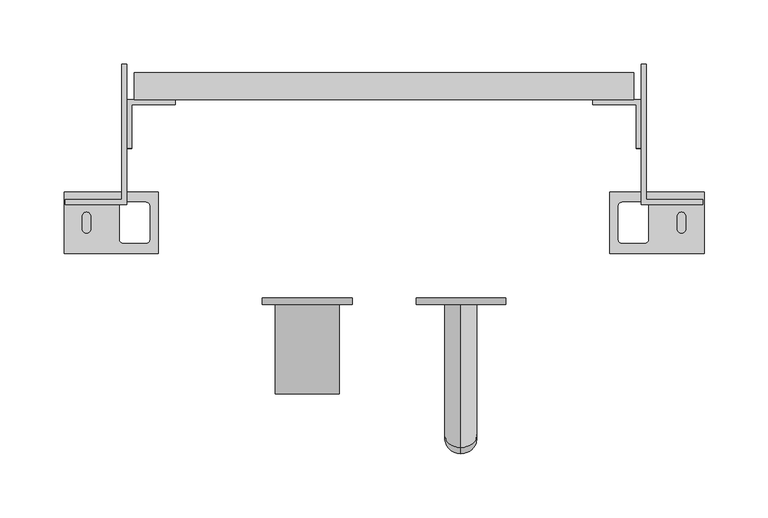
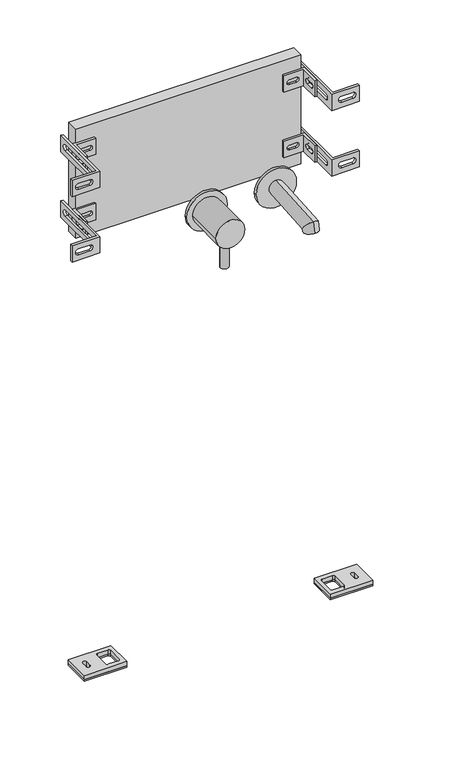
"""IFC4 building model written with IfcOpenShell, lengths in millimetres: flow terminal geometry, nextVIT Montageelement Dusch und Badewannenarmatur : nextVIT Montageelement Dusch und Badewannenarmatur."""

from ifc_helpers import new_model, si_unit, point, frame, frame_2d, origin, origin_with_axes, place, context, project, spatial, polyline, circle_curve, ellipse_curve, trimmed, segment, composite_curve, outline, extrude, source, transform, mapped, element, save
from ifc_brep_helpers import plane_surface, cylinder_surface, revolved_surface, advanced_brep


def flow_terminal_601b9abe(model_context):
    return source(origin(), model_context, "Body", "SolidModel", [
        advanced_brep(
        [(60.0, -188.1558733, 834.2177209), (60.0, -186.4119614, 809.2786197), (60.0, -306.7513047, 807.9954619), (60.0, -282.603159, 801.5249858), (60.0, -301.8554413, 826.2670726), (60.0, -282.3226414, 802.5718916)],
        [
            (0, 1, circle_curve(frame((60.0, -187.2839174, 821.7481703), z_axis=(0.0, 0.9975640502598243, 0.06975647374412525), x_axis=(0.0, 0.06975647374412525, -0.9975640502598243)), 12.5)),
            (1, 0, circle_curve(frame((60.0, -187.2839174, 821.7481703), z_axis=(0.0, 0.9975640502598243, 0.06975647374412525), x_axis=(0.0, 0.06975647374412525, -0.9975640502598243)), 12.5)),
            (2, 3, circle_curve(frame((60.0, -294.6772318, 804.7602238), z_axis=(0.0, -0.25881904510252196, -0.965925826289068), x_axis=(0.0, 0.965925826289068, -0.25881904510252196)), 12.5)),
            (3, 2, circle_curve(frame((60.0, -294.6772318, 804.7602238), z_axis=(0.0, -0.25881904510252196, -0.965925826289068), x_axis=(0.0, 0.965925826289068, -0.25881904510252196)), 12.5)),
            (0, 4),
            (4, 5, ellipse_curve(frame((60.0, -292.0890414, 814.4194821), z_axis=(0.0, 0.7716245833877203, 0.6360782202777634), x_axis=(0.0, 0.6360782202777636, -0.7716245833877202)), 15.3540864, 12.5)),
            (5, 1),
            (5, 4, ellipse_curve(frame((60.0, -292.0890414, 814.4194821), z_axis=(0.0, 0.7716245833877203, 0.6360782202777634), x_axis=(0.0, 0.6360782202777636, -0.7716245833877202)), 15.3540864, 12.5)),
            (4, 2),
            (3, 5),
        ],
        [
            plane_surface(frame((0.0, -187.2839174, 821.7481703), z_axis=(0.0, 0.9975640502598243, 0.06975647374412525), x_axis=(1.0, 0.0, 0.0))),
            plane_surface(frame((0.0, -294.6772318, 804.7602238), z_axis=(0.0, -0.25881904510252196, -0.965925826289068), x_axis=(1.0, 0.0, 0.0))),
            cylinder_surface(frame((60.0, -187.2839174, 821.7481703), z_axis=(0.0, 0.9975640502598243, 0.06975647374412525), x_axis=(0.0, 0.06975647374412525, -0.9975640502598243)), 12.5),
            cylinder_surface(frame((60.0, -292.0890414, 814.4194821), z_axis=(0.0, 0.25881904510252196, 0.965925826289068), x_axis=(0.0, 0.965925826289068, -0.25881904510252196)), 12.5),
        ],
        [
            (0, [[1, 2]]),
            (1, [[3, 4]]),
            (2, [[-1, 5, 6, 7]]),
            (2, [[-2, -7, 8, -5]]),
            (3, [[-6, 9, -4, 10]]),
            (3, [[-8, -10, -3, -9]]),
        ],
    ),
        extrude(outline(composite_curve([segment(trimmed(circle_curve(frame_2d((820.0, -60.0)), 25.0), [point((820.0, -85.0))], [point((820.0, -35.0))], False, "CARTESIAN"), True, "CONTINUOUS"), segment(trimmed(circle_curve(frame_2d((820.0, -60.0)), 25.0), [point((820.0, -35.0))], [point((820.0, -85.0))], False, "CARTESIAN"), True, "CONTINUOUS")], self_intersect=False)), frame((0.0, -260.0, 0.0), z_axis=(0.0, 1.0, 0.0), x_axis=(0.0, 0.0, 1.0)), (0.0, 0.0, 1.0), 70.0),
        extrude(outline(composite_curve([segment(trimmed(circle_curve(frame_2d((-60.0, -241.9817695)), 7.0), [point((-67.0, -241.9817695))], [point((-53.0, -241.9817695))], False, "CARTESIAN"), True, "CONTINUOUS"), segment(trimmed(circle_curve(frame_2d((-60.0, -241.9817695)), 7.0), [point((-53.0, -241.9817695))], [point((-67.0, -241.9817695))], False, "CARTESIAN"), True, "CONTINUOUS")], self_intersect=False)), frame((0.0, 0.0, 750.0), z_axis=(0.0, 0.0, 1.0), x_axis=(1.0, 0.0, 0.0)), (0.0, 0.0, 1.0), 70.0),
        extrude(outline(composite_curve([segment(trimmed(circle_curve(frame_2d((820.0, -60.0)), 35.0), [point((820.0, -95.0))], [point((820.0, -25.0))], False, "CARTESIAN"), True, "CONTINUOUS"), segment(trimmed(circle_curve(frame_2d((820.0, -60.0)), 35.0), [point((820.0, -25.0))], [point((820.0, -95.0))], False, "CARTESIAN"), True, "CONTINUOUS")], self_intersect=False)), frame((0.0, -190.0, 0.0), z_axis=(0.0, 1.0, 0.0), x_axis=(0.0, 0.0, 1.0)), (0.0, 0.0, 1.0), 5.0),
        extrude(outline(composite_curve([segment(trimmed(circle_curve(frame_2d((820.0, 60.0)), 35.0), [point((820.0, 25.0))], [point((820.0, 95.0))], False, "CARTESIAN"), True, "CONTINUOUS"), segment(trimmed(circle_curve(frame_2d((820.0, 60.0)), 35.0), [point((820.0, 95.0))], [point((820.0, 25.0))], False, "CARTESIAN"), True, "CONTINUOUS")], self_intersect=False)), frame((0.0, -190.0, 0.0), z_axis=(0.0, 1.0, 0.0), x_axis=(0.0, 0.0, 1.0)), (0.0, 0.0, 1.0), 5.0),
        extrude(outline(polyline([(195.0, -30.0), (-195.0, -30.0), (-195.0, -9.0), (195.0, -9.0), (195.0, -30.0)])), frame((0.0, 0.0, 720.0), z_axis=(0.0, 0.0, 1.0), x_axis=(1.0, 0.0, 0.0)), (0.0, 0.0, 1.0), 200.0),
        advanced_brep(
        [(-201.0, -2.0, 895.0), (-205.0, -2.0, 895.0), (-205.0, -108.0, 895.0), (-249.0, -108.0, 895.0), (-249.0, -112.0, 895.0), (-201.0, -112.0, 895.0), (-201.0, -2.0, 865.0), (-201.0, -112.0, 865.0), (-249.0, -112.0, 865.0), (-249.0, -108.0, 865.0), (-205.0, -108.0, 865.0), (-205.0, -2.0, 865.0), (-205.0, -14.75, 885.25), (-205.0, -94.25, 885.25), (-205.0, -94.25, 874.75), (-205.0, -14.75, 874.75), (-218.25, -108.0, 885.25), (-237.75, -108.0, 885.25), (-237.75, -108.0, 874.75), (-218.25, -108.0, 874.75), (-237.75, -112.0, 885.25), (-218.25, -112.0, 885.25), (-218.25, -112.0, 874.75), (-237.75, -112.0, 874.75), (-201.0, -94.25, 885.25), (-201.0, -14.75, 885.25), (-201.0, -14.75, 874.75), (-201.0, -94.25, 874.75)],
        [
            (0, 1),
            (1, 2),
            (2, 3),
            (3, 4),
            (4, 5),
            (5, 0),
            (6, 7),
            (7, 8),
            (8, 9),
            (9, 10),
            (10, 11),
            (11, 6),
            (0, 6),
            (11, 1),
            (10, 2),
            (12, 13),
            (13, 14, circle_curve(frame((-205.0, -94.25, 880.0), z_axis=(1.0, 0.0, 0.0), x_axis=(0.0, 1.0, 0.0)), 5.25)),
            (14, 15),
            (15, 12, circle_curve(frame((-205.0, -14.75, 880.0), z_axis=(1.0, 0.0, 0.0), x_axis=(0.0, 1.0, 0.0)), 5.25)),
            (9, 3),
            (16, 17),
            (17, 18, circle_curve(frame((-237.75, -108.0, 880.0), z_axis=(0.0, -1.0, 0.0), x_axis=(1.0, 0.0, 0.0)), 5.25)),
            (18, 19),
            (19, 16, circle_curve(frame((-218.25, -108.0, 880.0), z_axis=(0.0, -1.0, 0.0), x_axis=(1.0, 0.0, 0.0)), 5.25)),
            (8, 4),
            (7, 5),
            (20, 21),
            (21, 22, circle_curve(frame((-218.25, -112.0, 880.0), z_axis=(0.0, 1.0, 0.0), x_axis=(1.0, 0.0, 0.0)), 5.25)),
            (22, 23),
            (23, 20, circle_curve(frame((-237.75, -112.0, 880.0), z_axis=(0.0, 1.0, 0.0), x_axis=(1.0, 0.0, 0.0)), 5.25)),
            (24, 25),
            (25, 26, circle_curve(frame((-201.0, -14.75, 880.0), z_axis=(-1.0, 0.0, 0.0), x_axis=(0.0, 1.0, 0.0)), 5.25)),
            (26, 27),
            (27, 24, circle_curve(frame((-201.0, -94.25, 880.0), z_axis=(-1.0, 0.0, 0.0), x_axis=(0.0, 1.0, 0.0)), 5.25)),
            (20, 17),
            (16, 21),
            (23, 18),
            (22, 19),
            (24, 13),
            (12, 25),
            (27, 14),
            (26, 15),
        ],
        [
            plane_surface(frame((-201.0, -2.0, 895.0), z_axis=(0.0, 0.0, 1.0), x_axis=(-1.0, 0.0, 0.0))),
            plane_surface(frame((-201.0, -2.0, 865.0), z_axis=(0.0, 0.0, -1.0), x_axis=(1.0, 0.0, 0.0))),
            plane_surface(frame((-201.0, -2.0, 895.0), z_axis=(0.0, 1.0, 0.0), x_axis=(0.0, 0.0, -1.0))),
            plane_surface(frame((-205.0, -2.0, 895.0), z_axis=(-1.0, 0.0, 0.0), x_axis=(0.0, 0.0, -1.0))),
            plane_surface(frame((-205.0, -108.0, 895.0), z_axis=(0.0, 1.0, 0.0), x_axis=(0.0, 0.0, -1.0))),
            plane_surface(frame((-249.0, -108.0, 895.0), z_axis=(-1.0, 0.0, 0.0), x_axis=(0.0, 0.0, -1.0))),
            plane_surface(frame((-249.0, -112.0, 895.0), z_axis=(0.0, -1.0, 0.0), x_axis=(0.0, 0.0, -1.0))),
            plane_surface(frame((-201.0, -112.0, 895.0), z_axis=(1.0, 0.0, 0.0), x_axis=(0.0, 0.0, -1.0))),
            plane_surface(frame((-218.25, -112.0, 885.25), z_axis=(0.0, 0.0, -1.0), x_axis=(0.0, 1.0, 0.0))),
            revolved_surface(polyline([(-232.5, -112.0, 880.0), (-232.5, -108.0, 880.0)]), (-237.75, -108.0, 880.0), (0.0, -1.0, 0.0)),
            plane_surface(frame((-237.75, -112.0, 874.75), z_axis=(0.0, 0.0, 1.0), x_axis=(0.0, 1.0, 0.0))),
            revolved_surface(polyline([(-213.0, -112.0, 880.0), (-213.0, -108.0, 880.0)]), (-218.25, -108.0, 880.0), (0.0, -1.0, 0.0)),
            plane_surface(frame((-201.0, -14.75, 885.25), z_axis=(0.0, 0.0, -1.0), x_axis=(-1.0, 0.0, 0.0))),
            revolved_surface(polyline([(-201.0, -89.0, 880.0), (-205.0, -89.0, 880.0)]), (-205.0, -94.25, 880.0), (1.0, 0.0, 0.0)),
            plane_surface(frame((-201.0, -94.25, 874.75), z_axis=(0.0, 0.0, 1.0), x_axis=(-1.0, 0.0, 0.0))),
            revolved_surface(polyline([(-201.0, -9.5, 880.0), (-205.0, -9.5, 880.0)]), (-205.0, -14.75, 880.0), (1.0, 0.0, 0.0)),
        ],
        [
            (0, [[1, 2, 3, 4, 5, 6]]),
            (1, [[7, 8, 9, 10, 11, 12]]),
            (2, [[-1, 13, -12, 14]]),
            (3, [[-2, -14, -11, 15], [16, 17, 18, 19]]),
            (4, [[-3, -15, -10, 20], [21, 22, 23, 24]]),
            (5, [[-4, -20, -9, 25]]),
            (6, [[-5, -25, -8, 26], [27, 28, 29, 30]]),
            (7, [[-6, -26, -7, -13], [31, 32, 33, 34]]),
            (8, [[35, -21, 36, -27]]),
            (9, [[-35, -30, 37, -22]]),
            (10, [[-37, -29, 38, -23]]),
            (11, [[-36, -24, -38, -28]]),
            (12, [[39, -16, 40, -31]]),
            (13, [[-39, -34, 41, -17]]),
            (14, [[-41, -33, 42, -18]]),
            (15, [[-40, -19, -42, -32]]),
        ],
    ),
        advanced_brep(
        [(-163.0, -34.0, 895.0), (-163.0, -30.0, 895.0), (-201.0, -30.0, 895.0), (-201.0, -68.0, 895.0), (-197.0, -68.0, 895.0), (-197.0, -34.0, 895.0), (-163.0, -34.0, 865.0), (-197.0, -34.0, 865.0), (-197.0, -68.0, 865.0), (-201.0, -68.0, 865.0), (-201.0, -30.0, 865.0), (-163.0, -30.0, 865.0), (-173.0, -30.0, 884.3), (-185.0, -30.0, 884.3), (-185.0, -30.0, 875.7), (-173.0, -30.0, 875.7), (-201.0, -46.0, 884.3), (-201.0, -58.0, 884.3), (-201.0, -58.0, 875.7), (-201.0, -46.0, 875.7), (-197.0, -58.0, 884.3), (-197.0, -46.0, 884.3), (-197.0, -46.0, 875.7), (-197.0, -58.0, 875.7), (-185.0, -34.0, 884.3), (-173.0, -34.0, 884.3), (-173.0, -34.0, 875.7), (-185.0, -34.0, 875.7)],
        [
            (0, 1),
            (1, 2),
            (2, 3),
            (3, 4),
            (4, 5),
            (5, 0),
            (6, 7),
            (7, 8),
            (8, 9),
            (9, 10),
            (10, 11),
            (11, 6),
            (0, 6),
            (11, 1),
            (10, 2),
            (12, 13),
            (13, 14, circle_curve(frame((-185.0, -30.0, 880.0), z_axis=(0.0, -1.0, 0.0), x_axis=(1.0, 0.0, 0.0)), 4.3)),
            (14, 15),
            (15, 12, circle_curve(frame((-173.0, -30.0, 880.0), z_axis=(0.0, -1.0, 0.0), x_axis=(1.0, 0.0, 0.0)), 4.3)),
            (9, 3),
            (16, 17),
            (17, 18, circle_curve(frame((-201.0, -58.0, 880.0), z_axis=(1.0, 0.0, 0.0), x_axis=(0.0, 1.0, 0.0)), 4.3)),
            (18, 19),
            (19, 16, circle_curve(frame((-201.0, -46.0, 880.0), z_axis=(1.0, 0.0, 0.0), x_axis=(0.0, 1.0, 0.0)), 4.3)),
            (8, 4),
            (7, 5),
            (20, 21),
            (21, 22, circle_curve(frame((-197.0, -46.0, 880.0), z_axis=(-1.0, 0.0, 0.0), x_axis=(0.0, 1.0, 0.0)), 4.3)),
            (22, 23),
            (23, 20, circle_curve(frame((-197.0, -58.0, 880.0), z_axis=(-1.0, 0.0, 0.0), x_axis=(0.0, 1.0, 0.0)), 4.3)),
            (24, 25),
            (25, 26, circle_curve(frame((-173.0, -34.0, 880.0), z_axis=(0.0, 1.0, 0.0), x_axis=(1.0, 0.0, 0.0)), 4.3)),
            (26, 27),
            (27, 24, circle_curve(frame((-185.0, -34.0, 880.0), z_axis=(0.0, 1.0, 0.0), x_axis=(1.0, 0.0, 0.0)), 4.3)),
            (24, 13),
            (12, 25),
            (27, 14),
            (26, 15),
            (20, 17),
            (16, 21),
            (23, 18),
            (22, 19),
        ],
        [
            plane_surface(frame((-163.0, -34.0, 895.0), z_axis=(0.0, 0.0, 1.0), x_axis=(0.0, 1.0, 0.0))),
            plane_surface(frame((-163.0, -34.0, 865.0), z_axis=(0.0, 0.0, -1.0), x_axis=(0.0, -1.0, 0.0))),
            plane_surface(frame((-163.0, -34.0, 895.0), z_axis=(1.0, 0.0, 0.0), x_axis=(0.0, 0.0, -1.0))),
            plane_surface(frame((-163.0, -30.0, 895.0), z_axis=(0.0, 1.0, 0.0), x_axis=(0.0, 0.0, -1.0))),
            plane_surface(frame((-201.0, -30.0, 895.0), z_axis=(-1.0, 0.0, 0.0), x_axis=(0.0, 0.0, -1.0))),
            plane_surface(frame((-201.0, -68.0, 895.0), z_axis=(0.0, -1.0, 0.0), x_axis=(0.0, 0.0, -1.0))),
            plane_surface(frame((-197.0, -68.0, 895.0), z_axis=(1.0, 0.0, 0.0), x_axis=(0.0, 0.0, -1.0))),
            plane_surface(frame((-197.0, -34.0, 895.0), z_axis=(0.0, -1.0, 0.0), x_axis=(0.0, 0.0, -1.0))),
            plane_surface(frame((-173.0, -34.0, 884.3), z_axis=(0.0, 0.0, -1.0), x_axis=(0.0, 1.0, 0.0))),
            revolved_surface(polyline([(-180.7, -34.0, 880.0), (-180.7, -30.0, 880.0)]), (-185.0, -30.0, 880.0), (0.0, -1.0, 0.0)),
            plane_surface(frame((-185.0, -34.0, 875.7), z_axis=(0.0, 0.0, 1.0), x_axis=(0.0, 1.0, 0.0))),
            revolved_surface(polyline([(-168.7, -34.0, 880.0), (-168.7, -30.0, 880.0)]), (-173.0, -30.0, 880.0), (0.0, -1.0, 0.0)),
            plane_surface(frame((-197.0, -46.0, 884.3), z_axis=(0.0, 0.0, -1.0), x_axis=(-1.0, 0.0, 0.0))),
            revolved_surface(polyline([(-197.0, -53.7, 880.0), (-201.0, -53.7, 880.0)]), (-201.0, -58.0, 880.0), (1.0, 0.0, 0.0)),
            plane_surface(frame((-197.0, -58.0, 875.7), z_axis=(0.0, 0.0, 1.0), x_axis=(-1.0, 0.0, 0.0))),
            revolved_surface(polyline([(-197.0, -41.7, 880.0), (-201.0, -41.7, 880.0)]), (-201.0, -46.0, 880.0), (1.0, 0.0, 0.0)),
        ],
        [
            (0, [[1, 2, 3, 4, 5, 6]]),
            (1, [[7, 8, 9, 10, 11, 12]]),
            (2, [[-1, 13, -12, 14]]),
            (3, [[-2, -14, -11, 15], [16, 17, 18, 19]]),
            (4, [[-3, -15, -10, 20], [21, 22, 23, 24]]),
            (5, [[-4, -20, -9, 25]]),
            (6, [[-5, -25, -8, 26], [27, 28, 29, 30]]),
            (7, [[-6, -26, -7, -13], [31, 32, 33, 34]]),
            (8, [[35, -16, 36, -31]]),
            (9, [[-35, -34, 37, -17]]),
            (10, [[-37, -33, 38, -18]]),
            (11, [[-36, -19, -38, -32]]),
            (12, [[39, -21, 40, -27]]),
            (13, [[-39, -30, 41, -22]]),
            (14, [[-41, -29, 42, -23]]),
            (15, [[-40, -24, -42, -28]]),
        ],
    ),
        advanced_brep(
        [(-163.0, -34.0, 775.0), (-163.0, -30.0, 775.0), (-201.0, -30.0, 775.0), (-201.0, -68.0, 775.0), (-197.0, -68.0, 775.0), (-197.0, -34.0, 775.0), (-163.0, -34.0, 745.0), (-197.0, -34.0, 745.0), (-197.0, -68.0, 745.0), (-201.0, -68.0, 745.0), (-201.0, -30.0, 745.0), (-163.0, -30.0, 745.0), (-173.0, -30.0, 764.3), (-185.0, -30.0, 764.3), (-185.0, -30.0, 755.7), (-173.0, -30.0, 755.7), (-201.0, -46.0, 764.3), (-201.0, -58.0, 764.3), (-201.0, -58.0, 755.7), (-201.0, -46.0, 755.7), (-197.0, -58.0, 764.3), (-197.0, -46.0, 764.3), (-197.0, -46.0, 755.7), (-197.0, -58.0, 755.7), (-185.0, -34.0, 764.3), (-173.0, -34.0, 764.3), (-173.0, -34.0, 755.7), (-185.0, -34.0, 755.7)],
        [
            (0, 1),
            (1, 2),
            (2, 3),
            (3, 4),
            (4, 5),
            (5, 0),
            (6, 7),
            (7, 8),
            (8, 9),
            (9, 10),
            (10, 11),
            (11, 6),
            (0, 6),
            (11, 1),
            (10, 2),
            (12, 13),
            (13, 14, circle_curve(frame((-185.0, -30.0, 760.0), z_axis=(0.0, -1.0, 0.0), x_axis=(1.0, 0.0, 0.0)), 4.3)),
            (14, 15),
            (15, 12, circle_curve(frame((-173.0, -30.0, 760.0), z_axis=(0.0, -1.0, 0.0), x_axis=(1.0, 0.0, 0.0)), 4.3)),
            (9, 3),
            (16, 17),
            (17, 18, circle_curve(frame((-201.0, -58.0, 760.0), z_axis=(1.0, 0.0, 0.0), x_axis=(0.0, 1.0, 0.0)), 4.3)),
            (18, 19),
            (19, 16, circle_curve(frame((-201.0, -46.0, 760.0), z_axis=(1.0, 0.0, 0.0), x_axis=(0.0, 1.0, 0.0)), 4.3)),
            (8, 4),
            (7, 5),
            (20, 21),
            (21, 22, circle_curve(frame((-197.0, -46.0, 760.0), z_axis=(-1.0, 0.0, 0.0), x_axis=(0.0, 1.0, 0.0)), 4.3)),
            (22, 23),
            (23, 20, circle_curve(frame((-197.0, -58.0, 760.0), z_axis=(-1.0, 0.0, 0.0), x_axis=(0.0, 1.0, 0.0)), 4.3)),
            (24, 25),
            (25, 26, circle_curve(frame((-173.0, -34.0, 760.0), z_axis=(0.0, 1.0, 0.0), x_axis=(1.0, 0.0, 0.0)), 4.3)),
            (26, 27),
            (27, 24, circle_curve(frame((-185.0, -34.0, 760.0), z_axis=(0.0, 1.0, 0.0), x_axis=(1.0, 0.0, 0.0)), 4.3)),
            (20, 17),
            (16, 21),
            (23, 18),
            (22, 19),
            (24, 13),
            (12, 25),
            (27, 14),
            (26, 15),
        ],
        [
            plane_surface(frame((-163.0, -34.0, 775.0), z_axis=(0.0, 0.0, 1.0), x_axis=(0.0, 1.0, 0.0))),
            plane_surface(frame((-163.0, -34.0, 745.0), z_axis=(0.0, 0.0, -1.0), x_axis=(0.0, -1.0, 0.0))),
            plane_surface(frame((-163.0, -34.0, 775.0), z_axis=(1.0, 0.0, 0.0), x_axis=(0.0, 0.0, -1.0))),
            plane_surface(frame((-163.0, -30.0, 775.0), z_axis=(0.0, 1.0, 0.0), x_axis=(0.0, 0.0, -1.0))),
            plane_surface(frame((-201.0, -30.0, 775.0), z_axis=(-1.0, 0.0, 0.0), x_axis=(0.0, 0.0, -1.0))),
            plane_surface(frame((-201.0, -68.0, 775.0), z_axis=(0.0, -1.0, 0.0), x_axis=(0.0, 0.0, -1.0))),
            plane_surface(frame((-197.0, -68.0, 775.0), z_axis=(1.0, 0.0, 0.0), x_axis=(0.0, 0.0, -1.0))),
            plane_surface(frame((-197.0, -34.0, 775.0), z_axis=(0.0, -1.0, 0.0), x_axis=(0.0, 0.0, -1.0))),
            plane_surface(frame((-197.0, -46.0, 764.3), z_axis=(0.0, 0.0, -1.0), x_axis=(-1.0, 0.0, 0.0))),
            revolved_surface(polyline([(-197.0, -53.7, 760.0), (-201.0, -53.7, 760.0)]), (-201.0, -58.0, 760.0), (1.0, 0.0, 0.0)),
            plane_surface(frame((-197.0, -58.0, 755.7), z_axis=(0.0, 0.0, 1.0), x_axis=(-1.0, 0.0, 0.0))),
            revolved_surface(polyline([(-197.0, -41.7, 760.0), (-201.0, -41.7, 760.0)]), (-201.0, -46.0, 760.0), (1.0, 0.0, 0.0)),
            plane_surface(frame((-173.0, -34.0, 764.3), z_axis=(0.0, 0.0, -1.0), x_axis=(0.0, 1.0, 0.0))),
            revolved_surface(polyline([(-180.7, -34.0, 760.0), (-180.7, -30.0, 760.0)]), (-185.0, -30.0, 760.0), (0.0, -1.0, 0.0)),
            plane_surface(frame((-185.0, -34.0, 755.7), z_axis=(0.0, 0.0, 1.0), x_axis=(0.0, 1.0, 0.0))),
            revolved_surface(polyline([(-168.7, -34.0, 760.0), (-168.7, -30.0, 760.0)]), (-173.0, -30.0, 760.0), (0.0, -1.0, 0.0)),
        ],
        [
            (0, [[1, 2, 3, 4, 5, 6]]),
            (1, [[7, 8, 9, 10, 11, 12]]),
            (2, [[-1, 13, -12, 14]]),
            (3, [[-2, -14, -11, 15], [16, 17, 18, 19]]),
            (4, [[-3, -15, -10, 20], [21, 22, 23, 24]]),
            (5, [[-4, -20, -9, 25]]),
            (6, [[-5, -25, -8, 26], [27, 28, 29, 30]]),
            (7, [[-6, -26, -7, -13], [31, 32, 33, 34]]),
            (8, [[35, -21, 36, -27]]),
            (9, [[-35, -30, 37, -22]]),
            (10, [[-37, -29, 38, -23]]),
            (11, [[-36, -24, -38, -28]]),
            (12, [[39, -16, 40, -31]]),
            (13, [[-39, -34, 41, -17]]),
            (14, [[-41, -33, 42, -18]]),
            (15, [[-40, -19, -42, -32]]),
        ],
    ),
        advanced_brep(
        [(-201.0, -2.0, 775.0), (-205.0, -2.0, 775.0), (-205.0, -108.0, 775.0), (-249.0, -108.0, 775.0), (-249.0, -112.0, 775.0), (-201.0, -112.0, 775.0), (-201.0, -2.0, 745.0), (-201.0, -112.0, 745.0), (-249.0, -112.0, 745.0), (-249.0, -108.0, 745.0), (-205.0, -108.0, 745.0), (-205.0, -2.0, 745.0), (-205.0, -14.75, 765.25), (-205.0, -94.25, 765.25), (-205.0, -94.25, 754.75), (-205.0, -14.75, 754.75), (-218.25, -108.0, 765.25), (-237.75, -108.0, 765.25), (-237.75, -108.0, 754.75), (-218.25, -108.0, 754.75), (-237.75, -112.0, 765.25), (-218.25, -112.0, 765.25), (-218.25, -112.0, 754.75), (-237.75, -112.0, 754.75), (-201.0, -94.25, 765.25), (-201.0, -14.75, 765.25), (-201.0, -14.75, 754.75), (-201.0, -94.25, 754.75)],
        [
            (0, 1),
            (1, 2),
            (2, 3),
            (3, 4),
            (4, 5),
            (5, 0),
            (6, 7),
            (7, 8),
            (8, 9),
            (9, 10),
            (10, 11),
            (11, 6),
            (0, 6),
            (11, 1),
            (10, 2),
            (12, 13),
            (13, 14, circle_curve(frame((-205.0, -94.25, 760.0), z_axis=(1.0, 0.0, 0.0), x_axis=(0.0, 1.0, 0.0)), 5.25)),
            (14, 15),
            (15, 12, circle_curve(frame((-205.0, -14.75, 760.0), z_axis=(1.0, 0.0, 0.0), x_axis=(0.0, 1.0, 0.0)), 5.25)),
            (9, 3),
            (16, 17),
            (17, 18, circle_curve(frame((-237.75, -108.0, 760.0), z_axis=(0.0, -1.0, 0.0), x_axis=(1.0, 0.0, 0.0)), 5.25)),
            (18, 19),
            (19, 16, circle_curve(frame((-218.25, -108.0, 760.0), z_axis=(0.0, -1.0, 0.0), x_axis=(1.0, 0.0, 0.0)), 5.25)),
            (8, 4),
            (7, 5),
            (20, 21),
            (21, 22, circle_curve(frame((-218.25, -112.0, 760.0), z_axis=(0.0, 1.0, 0.0), x_axis=(1.0, 0.0, 0.0)), 5.25)),
            (22, 23),
            (23, 20, circle_curve(frame((-237.75, -112.0, 760.0), z_axis=(0.0, 1.0, 0.0), x_axis=(1.0, 0.0, 0.0)), 5.25)),
            (24, 25),
            (25, 26, circle_curve(frame((-201.0, -14.75, 760.0), z_axis=(-1.0, 0.0, 0.0), x_axis=(0.0, 1.0, 0.0)), 5.25)),
            (26, 27),
            (27, 24, circle_curve(frame((-201.0, -94.25, 760.0), z_axis=(-1.0, 0.0, 0.0), x_axis=(0.0, 1.0, 0.0)), 5.25)),
            (20, 17),
            (16, 21),
            (23, 18),
            (22, 19),
            (24, 13),
            (12, 25),
            (27, 14),
            (26, 15),
        ],
        [
            plane_surface(frame((-201.0, -2.0, 775.0), z_axis=(0.0, 0.0, 1.0), x_axis=(-1.0, 0.0, 0.0))),
            plane_surface(frame((-201.0, -2.0, 745.0), z_axis=(0.0, 0.0, -1.0), x_axis=(1.0, 0.0, 0.0))),
            plane_surface(frame((-201.0, -2.0, 775.0), z_axis=(0.0, 1.0, 0.0), x_axis=(0.0, 0.0, -1.0))),
            plane_surface(frame((-205.0, -2.0, 775.0), z_axis=(-1.0, 0.0, 0.0), x_axis=(0.0, 0.0, -1.0))),
            plane_surface(frame((-205.0, -108.0, 775.0), z_axis=(0.0, 1.0, 0.0), x_axis=(0.0, 0.0, -1.0))),
            plane_surface(frame((-249.0, -108.0, 775.0), z_axis=(-1.0, 0.0, 0.0), x_axis=(0.0, 0.0, -1.0))),
            plane_surface(frame((-249.0, -112.0, 775.0), z_axis=(0.0, -1.0, 0.0), x_axis=(0.0, 0.0, -1.0))),
            plane_surface(frame((-201.0, -112.0, 775.0), z_axis=(1.0, 0.0, 0.0), x_axis=(0.0, 0.0, -1.0))),
            plane_surface(frame((-218.25, -112.0, 765.25), z_axis=(0.0, 0.0, -1.0), x_axis=(0.0, 1.0, 0.0))),
            revolved_surface(polyline([(-232.5, -112.0, 760.0), (-232.5, -108.0, 760.0)]), (-237.75, -108.0, 760.0), (0.0, -1.0, 0.0)),
            plane_surface(frame((-237.75, -112.0, 754.75), z_axis=(0.0, 0.0, 1.0), x_axis=(0.0, 1.0, 0.0))),
            revolved_surface(polyline([(-213.0, -112.0, 760.0), (-213.0, -108.0, 760.0)]), (-218.25, -108.0, 760.0), (0.0, -1.0, 0.0)),
            plane_surface(frame((-201.0, -14.75, 765.25), z_axis=(0.0, 0.0, -1.0), x_axis=(-1.0, 0.0, 0.0))),
            revolved_surface(polyline([(-201.0, -89.0, 760.0), (-205.0, -89.0, 760.0)]), (-205.0, -94.25, 760.0), (1.0, 0.0, 0.0)),
            plane_surface(frame((-201.0, -94.25, 754.75), z_axis=(0.0, 0.0, 1.0), x_axis=(-1.0, 0.0, 0.0))),
            revolved_surface(polyline([(-201.0, -9.5, 760.0), (-205.0, -9.5, 760.0)]), (-205.0, -14.75, 760.0), (1.0, 0.0, 0.0)),
        ],
        [
            (0, [[1, 2, 3, 4, 5, 6]]),
            (1, [[7, 8, 9, 10, 11, 12]]),
            (2, [[-1, 13, -12, 14]]),
            (3, [[-2, -14, -11, 15], [16, 17, 18, 19]]),
            (4, [[-3, -15, -10, 20], [21, 22, 23, 24]]),
            (5, [[-4, -20, -9, 25]]),
            (6, [[-5, -25, -8, 26], [27, 28, 29, 30]]),
            (7, [[-6, -26, -7, -13], [31, 32, 33, 34]]),
            (8, [[35, -21, 36, -27]]),
            (9, [[-35, -30, 37, -22]]),
            (10, [[-37, -29, 38, -23]]),
            (11, [[-36, -24, -38, -28]]),
            (12, [[39, -16, 40, -31]]),
            (13, [[-39, -34, 41, -17]]),
            (14, [[-41, -33, 42, -18]]),
            (15, [[-40, -19, -42, -32]]),
        ],
    ),
        advanced_brep(
        [(163.0, -34.0, 775.0), (197.0, -34.0, 775.0), (197.0, -68.0, 775.0), (201.0, -68.0, 775.0), (201.0, -30.0, 775.0), (163.0, -30.0, 775.0), (163.0, -34.0, 745.0), (163.0, -30.0, 745.0), (201.0, -30.0, 745.0), (201.0, -68.0, 745.0), (197.0, -68.0, 745.0), (197.0, -34.0, 745.0), (185.0, -34.0, 764.3), (185.0, -34.0, 755.7), (173.0, -34.0, 755.7), (173.0, -34.0, 764.3), (197.0, -46.0, 755.7), (197.0, -46.0, 764.3), (197.0, -58.0, 764.3), (197.0, -58.0, 755.7), (201.0, -46.0, 764.3), (201.0, -46.0, 755.7), (201.0, -58.0, 755.7), (201.0, -58.0, 764.3), (185.0, -30.0, 755.7), (185.0, -30.0, 764.3), (173.0, -30.0, 764.3), (173.0, -30.0, 755.7)],
        [
            (0, 1),
            (1, 2),
            (2, 3),
            (3, 4),
            (4, 5),
            (5, 0),
            (6, 7),
            (7, 8),
            (8, 9),
            (9, 10),
            (10, 11),
            (11, 6),
            (0, 6),
            (11, 1),
            (12, 13, circle_curve(frame((185.0, -34.0, 760.0), z_axis=(0.0, 1.0, 0.0), x_axis=(-1.0, 0.0, 0.0)), 4.3)),
            (13, 14),
            (14, 15, circle_curve(frame((173.0, -34.0, 760.0), z_axis=(0.0, 1.0, 0.0), x_axis=(-1.0, 0.0, 0.0)), 4.3)),
            (15, 12),
            (10, 2),
            (16, 17, circle_curve(frame((197.0, -46.0, 760.0), z_axis=(1.0, 0.0, 0.0), x_axis=(0.0, 1.0, 0.0)), 4.3)),
            (17, 18),
            (18, 19, circle_curve(frame((197.0, -58.0, 760.0), z_axis=(1.0, 0.0, 0.0), x_axis=(0.0, 1.0, 0.0)), 4.3)),
            (19, 16),
            (9, 3),
            (8, 4),
            (20, 21, circle_curve(frame((201.0, -46.0, 760.0), z_axis=(-1.0, 0.0, 0.0), x_axis=(0.0, 1.0, 0.0)), 4.3)),
            (21, 22),
            (22, 23, circle_curve(frame((201.0, -58.0, 760.0), z_axis=(-1.0, 0.0, 0.0), x_axis=(0.0, 1.0, 0.0)), 4.3)),
            (23, 20),
            (7, 5),
            (24, 25, circle_curve(frame((185.0, -30.0, 760.0), z_axis=(0.0, -1.0, 0.0), x_axis=(-1.0, 0.0, 0.0)), 4.3)),
            (25, 26),
            (26, 27, circle_curve(frame((173.0, -30.0, 760.0), z_axis=(0.0, -1.0, 0.0), x_axis=(-1.0, 0.0, 0.0)), 4.3)),
            (27, 24),
            (16, 21),
            (20, 17),
            (19, 22),
            (18, 23),
            (12, 25),
            (24, 13),
            (15, 26),
            (14, 27),
        ],
        [
            plane_surface(frame((197.0, -34.0, 775.0), z_axis=(0.0, 0.0, 1.0), x_axis=(1.0, 0.0, 0.0))),
            plane_surface(frame((197.0, -34.0, 745.0), z_axis=(0.0, 0.0, -1.0), x_axis=(-1.0, 0.0, 0.0))),
            plane_surface(frame((163.0, -34.0, 775.0), z_axis=(0.0, -1.0, 0.0), x_axis=(0.0, 0.0, -1.0))),
            plane_surface(frame((197.0, -34.0, 775.0), z_axis=(-1.0, 0.0, 0.0), x_axis=(0.0, 0.0, -1.0))),
            plane_surface(frame((197.0, -68.0, 775.0), z_axis=(0.0, -1.0, 0.0), x_axis=(0.0, 0.0, -1.0))),
            plane_surface(frame((201.0, -68.0, 775.0), z_axis=(1.0, 0.0, 0.0), x_axis=(0.0, 0.0, -1.0))),
            plane_surface(frame((201.0, -30.0, 775.0), z_axis=(0.0, 1.0, 0.0), x_axis=(0.0, 0.0, -1.0))),
            plane_surface(frame((163.0, -30.0, 775.0), z_axis=(-1.0, 0.0, 0.0), x_axis=(0.0, 0.0, -1.0))),
            revolved_surface(polyline([(197.0, -41.7, 760.0), (201.0, -41.7, 760.0)]), (201.0, -46.0, 760.0), (-1.0, 0.0, 0.0)),
            plane_surface(frame((197.0, -46.0, 755.7), z_axis=(0.0, 0.0, 1.0), x_axis=(1.0, 0.0, 0.0))),
            revolved_surface(polyline([(197.0, -53.7, 760.0), (201.0, -53.7, 760.0)]), (201.0, -58.0, 760.0), (-1.0, 0.0, 0.0)),
            plane_surface(frame((197.0, -58.0, 764.3), z_axis=(0.0, 0.0, -1.0), x_axis=(1.0, 0.0, 0.0))),
            revolved_surface(polyline([(180.7, -34.0, 760.0), (180.7, -30.0, 760.0)]), (185.0, -30.0, 760.0), (0.0, -1.0, 0.0)),
            plane_surface(frame((185.0, -34.0, 764.3), z_axis=(0.0, 0.0, -1.0), x_axis=(0.0, 1.0, 0.0))),
            revolved_surface(polyline([(168.7, -34.0, 760.0), (168.7, -30.0, 760.0)]), (173.0, -30.0, 760.0), (0.0, -1.0, 0.0)),
            plane_surface(frame((173.0, -34.0, 755.7), z_axis=(0.0, 0.0, 1.0), x_axis=(0.0, 1.0, 0.0))),
        ],
        [
            (0, [[1, 2, 3, 4, 5, 6]]),
            (1, [[7, 8, 9, 10, 11, 12]]),
            (2, [[-1, 13, -12, 14], [15, 16, 17, 18]]),
            (3, [[-2, -14, -11, 19], [20, 21, 22, 23]]),
            (4, [[-3, -19, -10, 24]]),
            (5, [[-4, -24, -9, 25], [26, 27, 28, 29]]),
            (6, [[-5, -25, -8, 30], [31, 32, 33, 34]]),
            (7, [[-6, -30, -7, -13]]),
            (8, [[35, -26, 36, -20]]),
            (9, [[-35, -23, 37, -27]]),
            (10, [[-37, -22, 38, -28]]),
            (11, [[-36, -29, -38, -21]]),
            (12, [[39, -31, 40, -15]]),
            (13, [[-39, -18, 41, -32]]),
            (14, [[-41, -17, 42, -33]]),
            (15, [[-40, -34, -42, -16]]),
        ],
    ),
        advanced_brep(
        [(201.0, -2.0, 775.0), (201.0, -112.0, 775.0), (249.0, -112.0, 775.0), (249.0, -108.0, 775.0), (205.0, -108.0, 775.0), (205.0, -2.0, 775.0), (201.0, -2.0, 745.0), (205.0, -2.0, 745.0), (205.0, -108.0, 745.0), (249.0, -108.0, 745.0), (249.0, -112.0, 745.0), (201.0, -112.0, 745.0), (201.0, -14.75, 765.25), (201.0, -94.25, 765.25), (201.0, -94.25, 754.75), (201.0, -14.75, 754.75), (218.25, -112.0, 765.25), (237.75, -112.0, 765.25), (237.75, -112.0, 754.75), (218.25, -112.0, 754.75), (237.75, -108.0, 765.25), (218.25, -108.0, 765.25), (218.25, -108.0, 754.75), (237.75, -108.0, 754.75), (205.0, -94.25, 765.25), (205.0, -14.75, 765.25), (205.0, -14.75, 754.75), (205.0, -94.25, 754.75)],
        [
            (0, 1),
            (1, 2),
            (2, 3),
            (3, 4),
            (4, 5),
            (5, 0),
            (6, 7),
            (7, 8),
            (8, 9),
            (9, 10),
            (10, 11),
            (11, 6),
            (0, 6),
            (11, 1),
            (12, 13),
            (13, 14, circle_curve(frame((201.0, -94.25, 760.0), z_axis=(1.0, 0.0, 0.0), x_axis=(0.0, 1.0, 0.0)), 5.25)),
            (14, 15),
            (15, 12, circle_curve(frame((201.0, -14.75, 760.0), z_axis=(1.0, 0.0, 0.0), x_axis=(0.0, 1.0, 0.0)), 5.25)),
            (10, 2),
            (16, 17),
            (17, 18, circle_curve(frame((237.75, -112.0, 760.0), z_axis=(0.0, 1.0, 0.0), x_axis=(-1.0, 0.0, 0.0)), 5.25)),
            (18, 19),
            (19, 16, circle_curve(frame((218.25, -112.0, 760.0), z_axis=(0.0, 1.0, 0.0), x_axis=(-1.0, 0.0, 0.0)), 5.25)),
            (9, 3),
            (8, 4),
            (20, 21),
            (21, 22, circle_curve(frame((218.25, -108.0, 760.0), z_axis=(0.0, -1.0, 0.0), x_axis=(-1.0, 0.0, 0.0)), 5.25)),
            (22, 23),
            (23, 20, circle_curve(frame((237.75, -108.0, 760.0), z_axis=(0.0, -1.0, 0.0), x_axis=(-1.0, 0.0, 0.0)), 5.25)),
            (7, 5),
            (24, 25),
            (25, 26, circle_curve(frame((205.0, -14.75, 760.0), z_axis=(-1.0, 0.0, 0.0), x_axis=(0.0, 1.0, 0.0)), 5.25)),
            (26, 27),
            (27, 24, circle_curve(frame((205.0, -94.25, 760.0), z_axis=(-1.0, 0.0, 0.0), x_axis=(0.0, 1.0, 0.0)), 5.25)),
            (16, 21),
            (20, 17),
            (19, 22),
            (18, 23),
            (12, 25),
            (24, 13),
            (15, 26),
            (14, 27),
        ],
        [
            plane_surface(frame((201.0, -112.0, 775.0), z_axis=(0.0, 0.0, 1.0), x_axis=(0.0, -1.0, 0.0))),
            plane_surface(frame((201.0, -112.0, 745.0), z_axis=(0.0, 0.0, -1.0), x_axis=(0.0, 1.0, 0.0))),
            plane_surface(frame((201.0, -2.0, 775.0), z_axis=(-1.0, 0.0, 0.0), x_axis=(0.0, 0.0, -1.0))),
            plane_surface(frame((201.0, -112.0, 775.0), z_axis=(0.0, -1.0, 0.0), x_axis=(0.0, 0.0, -1.0))),
            plane_surface(frame((249.0, -112.0, 775.0), z_axis=(1.0, 0.0, 0.0), x_axis=(0.0, 0.0, -1.0))),
            plane_surface(frame((249.0, -108.0, 775.0), z_axis=(0.0, 1.0, 0.0), x_axis=(0.0, 0.0, -1.0))),
            plane_surface(frame((205.0, -108.0, 775.0), z_axis=(1.0, 0.0, 0.0), x_axis=(0.0, 0.0, -1.0))),
            plane_surface(frame((205.0, -2.0, 775.0), z_axis=(0.0, 1.0, 0.0), x_axis=(0.0, 0.0, -1.0))),
            plane_surface(frame((237.75, -112.0, 765.25), z_axis=(0.0, 0.0, -1.0), x_axis=(0.0, 1.0, 0.0))),
            revolved_surface(polyline([(213.0, -112.0, 760.0), (213.0, -108.0, 760.0)]), (218.25, -108.0, 760.0), (0.0, -1.0, 0.0)),
            plane_surface(frame((218.25, -112.0, 754.75), z_axis=(0.0, 0.0, 1.0), x_axis=(0.0, 1.0, 0.0))),
            revolved_surface(polyline([(232.5, -112.0, 760.0), (232.5, -108.0, 760.0)]), (237.75, -108.0, 760.0), (0.0, -1.0, 0.0)),
            plane_surface(frame((201.0, -94.25, 765.25), z_axis=(0.0, 0.0, -1.0), x_axis=(1.0, 0.0, 0.0))),
            revolved_surface(polyline([(201.0, -9.5, 760.0), (205.0, -9.5, 760.0)]), (205.0, -14.75, 760.0), (-1.0, 0.0, 0.0)),
            plane_surface(frame((201.0, -14.75, 754.75), z_axis=(0.0, 0.0, 1.0), x_axis=(1.0, 0.0, 0.0))),
            revolved_surface(polyline([(201.0, -89.0, 760.0), (205.0, -89.0, 760.0)]), (205.0, -94.25, 760.0), (-1.0, 0.0, 0.0)),
        ],
        [
            (0, [[1, 2, 3, 4, 5, 6]]),
            (1, [[7, 8, 9, 10, 11, 12]]),
            (2, [[-1, 13, -12, 14], [15, 16, 17, 18]]),
            (3, [[-2, -14, -11, 19], [20, 21, 22, 23]]),
            (4, [[-3, -19, -10, 24]]),
            (5, [[-4, -24, -9, 25], [26, 27, 28, 29]]),
            (6, [[-5, -25, -8, 30], [31, 32, 33, 34]]),
            (7, [[-6, -30, -7, -13]]),
            (8, [[35, -26, 36, -20]]),
            (9, [[-35, -23, 37, -27]]),
            (10, [[-37, -22, 38, -28]]),
            (11, [[-36, -29, -38, -21]]),
            (12, [[39, -31, 40, -15]]),
            (13, [[-39, -18, 41, -32]]),
            (14, [[-41, -17, 42, -33]]),
            (15, [[-40, -34, -42, -16]]),
        ],
    ),
        advanced_brep(
        [(201.0, -2.0, 895.0), (201.0, -112.0, 895.0), (249.0, -112.0, 895.0), (249.0, -108.0, 895.0), (205.0, -108.0, 895.0), (205.0, -2.0, 895.0), (201.0, -2.0, 865.0), (205.0, -2.0, 865.0), (205.0, -108.0, 865.0), (249.0, -108.0, 865.0), (249.0, -112.0, 865.0), (201.0, -112.0, 865.0), (201.0, -14.75, 885.25), (201.0, -94.25, 885.25), (201.0, -94.25, 874.75), (201.0, -14.75, 874.75), (218.25, -112.0, 885.25), (237.75, -112.0, 885.25), (237.75, -112.0, 874.75), (218.25, -112.0, 874.75), (237.75, -108.0, 885.25), (218.25, -108.0, 885.25), (218.25, -108.0, 874.75), (237.75, -108.0, 874.75), (205.0, -94.25, 885.25), (205.0, -14.75, 885.25), (205.0, -14.75, 874.75), (205.0, -94.25, 874.75)],
        [
            (0, 1),
            (1, 2),
            (2, 3),
            (3, 4),
            (4, 5),
            (5, 0),
            (6, 7),
            (7, 8),
            (8, 9),
            (9, 10),
            (10, 11),
            (11, 6),
            (0, 6),
            (11, 1),
            (12, 13),
            (13, 14, circle_curve(frame((201.0, -94.25, 880.0), z_axis=(1.0, 0.0, 0.0), x_axis=(0.0, 1.0, 0.0)), 5.25)),
            (14, 15),
            (15, 12, circle_curve(frame((201.0, -14.75, 880.0), z_axis=(1.0, 0.0, 0.0), x_axis=(0.0, 1.0, 0.0)), 5.25)),
            (10, 2),
            (16, 17),
            (17, 18, circle_curve(frame((237.75, -112.0, 880.0), z_axis=(0.0, 1.0, 0.0), x_axis=(-1.0, 0.0, 0.0)), 5.25)),
            (18, 19),
            (19, 16, circle_curve(frame((218.25, -112.0, 880.0), z_axis=(0.0, 1.0, 0.0), x_axis=(-1.0, 0.0, 0.0)), 5.25)),
            (9, 3),
            (8, 4),
            (20, 21),
            (21, 22, circle_curve(frame((218.25, -108.0, 880.0), z_axis=(0.0, -1.0, 0.0), x_axis=(-1.0, 0.0, 0.0)), 5.25)),
            (22, 23),
            (23, 20, circle_curve(frame((237.75, -108.0, 880.0), z_axis=(0.0, -1.0, 0.0), x_axis=(-1.0, 0.0, 0.0)), 5.25)),
            (7, 5),
            (24, 25),
            (25, 26, circle_curve(frame((205.0, -14.75, 880.0), z_axis=(-1.0, 0.0, 0.0), x_axis=(0.0, 1.0, 0.0)), 5.25)),
            (26, 27),
            (27, 24, circle_curve(frame((205.0, -94.25, 880.0), z_axis=(-1.0, 0.0, 0.0), x_axis=(0.0, 1.0, 0.0)), 5.25)),
            (12, 25),
            (24, 13),
            (15, 26),
            (14, 27),
            (16, 21),
            (20, 17),
            (19, 22),
            (18, 23),
        ],
        [
            plane_surface(frame((201.0, -112.0, 895.0), z_axis=(0.0, 0.0, 1.0), x_axis=(0.0, -1.0, 0.0))),
            plane_surface(frame((201.0, -112.0, 865.0), z_axis=(0.0, 0.0, -1.0), x_axis=(0.0, 1.0, 0.0))),
            plane_surface(frame((201.0, -2.0, 895.0), z_axis=(-1.0, 0.0, 0.0), x_axis=(0.0, 0.0, -1.0))),
            plane_surface(frame((201.0, -112.0, 895.0), z_axis=(0.0, -1.0, 0.0), x_axis=(0.0, 0.0, -1.0))),
            plane_surface(frame((249.0, -112.0, 895.0), z_axis=(1.0, 0.0, 0.0), x_axis=(0.0, 0.0, -1.0))),
            plane_surface(frame((249.0, -108.0, 895.0), z_axis=(0.0, 1.0, 0.0), x_axis=(0.0, 0.0, -1.0))),
            plane_surface(frame((205.0, -108.0, 895.0), z_axis=(1.0, 0.0, 0.0), x_axis=(0.0, 0.0, -1.0))),
            plane_surface(frame((205.0, -2.0, 895.0), z_axis=(0.0, 1.0, 0.0), x_axis=(0.0, 0.0, -1.0))),
            plane_surface(frame((201.0, -94.25, 885.25), z_axis=(0.0, 0.0, -1.0), x_axis=(1.0, 0.0, 0.0))),
            revolved_surface(polyline([(201.0, -9.5, 880.0), (205.0, -9.5, 880.0)]), (205.0, -14.75, 880.0), (-1.0, 0.0, 0.0)),
            plane_surface(frame((201.0, -14.75, 874.75), z_axis=(0.0, 0.0, 1.0), x_axis=(1.0, 0.0, 0.0))),
            revolved_surface(polyline([(201.0, -89.0, 880.0), (205.0, -89.0, 880.0)]), (205.0, -94.25, 880.0), (-1.0, 0.0, 0.0)),
            plane_surface(frame((237.75, -112.0, 885.25), z_axis=(0.0, 0.0, -1.0), x_axis=(0.0, 1.0, 0.0))),
            revolved_surface(polyline([(213.0, -112.0, 880.0), (213.0, -108.0, 880.0)]), (218.25, -108.0, 880.0), (0.0, -1.0, 0.0)),
            plane_surface(frame((218.25, -112.0, 874.75), z_axis=(0.0, 0.0, 1.0), x_axis=(0.0, 1.0, 0.0))),
            revolved_surface(polyline([(232.5, -112.0, 880.0), (232.5, -108.0, 880.0)]), (237.75, -108.0, 880.0), (0.0, -1.0, 0.0)),
        ],
        [
            (0, [[1, 2, 3, 4, 5, 6]]),
            (1, [[7, 8, 9, 10, 11, 12]]),
            (2, [[-1, 13, -12, 14], [15, 16, 17, 18]]),
            (3, [[-2, -14, -11, 19], [20, 21, 22, 23]]),
            (4, [[-3, -19, -10, 24]]),
            (5, [[-4, -24, -9, 25], [26, 27, 28, 29]]),
            (6, [[-5, -25, -8, 30], [31, 32, 33, 34]]),
            (7, [[-6, -30, -7, -13]]),
            (8, [[35, -31, 36, -15]]),
            (9, [[-35, -18, 37, -32]]),
            (10, [[-37, -17, 38, -33]]),
            (11, [[-36, -34, -38, -16]]),
            (12, [[39, -26, 40, -20]]),
            (13, [[-39, -23, 41, -27]]),
            (14, [[-41, -22, 42, -28]]),
            (15, [[-40, -29, -42, -21]]),
        ],
    ),
        advanced_brep(
        [(163.0, -34.0, 895.0), (197.0, -34.0, 895.0), (197.0, -68.0, 895.0), (201.0, -68.0, 895.0), (201.0, -30.0, 895.0), (163.0, -30.0, 895.0), (163.0, -34.0, 865.0), (163.0, -30.0, 865.0), (201.0, -30.0, 865.0), (201.0, -68.0, 865.0), (197.0, -68.0, 865.0), (197.0, -34.0, 865.0), (173.0, -34.0, 875.7), (173.0, -34.0, 884.3), (185.0, -34.0, 884.3), (185.0, -34.0, 875.7), (197.0, -46.0, 875.7), (197.0, -46.0, 884.3), (197.0, -58.0, 884.3), (197.0, -58.0, 875.7), (201.0, -46.0, 884.3), (201.0, -46.0, 875.7), (201.0, -58.0, 875.7), (201.0, -58.0, 884.3), (173.0, -30.0, 884.3), (173.0, -30.0, 875.7), (185.0, -30.0, 875.7), (185.0, -30.0, 884.3)],
        [
            (0, 1),
            (1, 2),
            (2, 3),
            (3, 4),
            (4, 5),
            (5, 0),
            (6, 7),
            (7, 8),
            (8, 9),
            (9, 10),
            (10, 11),
            (11, 6),
            (0, 6),
            (11, 1),
            (12, 13, circle_curve(frame((173.0, -34.0, 880.0), z_axis=(0.0, 1.0, 0.0), x_axis=(-1.0, 0.0, 0.0)), 4.3)),
            (13, 14),
            (14, 15, circle_curve(frame((185.0, -34.0, 880.0), z_axis=(0.0, 1.0, 0.0), x_axis=(-1.0, 0.0, 0.0)), 4.3)),
            (15, 12),
            (10, 2),
            (16, 17, circle_curve(frame((197.0, -46.0, 880.0), z_axis=(1.0, 0.0, 0.0), x_axis=(0.0, 1.0, 0.0)), 4.3)),
            (17, 18),
            (18, 19, circle_curve(frame((197.0, -58.0, 880.0), z_axis=(1.0, 0.0, 0.0), x_axis=(0.0, 1.0, 0.0)), 4.3)),
            (19, 16),
            (9, 3),
            (8, 4),
            (20, 21, circle_curve(frame((201.0, -46.0, 880.0), z_axis=(-1.0, 0.0, 0.0), x_axis=(0.0, 1.0, 0.0)), 4.3)),
            (21, 22),
            (22, 23, circle_curve(frame((201.0, -58.0, 880.0), z_axis=(-1.0, 0.0, 0.0), x_axis=(0.0, 1.0, 0.0)), 4.3)),
            (23, 20),
            (7, 5),
            (24, 25, circle_curve(frame((173.0, -30.0, 880.0), z_axis=(0.0, -1.0, 0.0), x_axis=(-1.0, 0.0, 0.0)), 4.3)),
            (25, 26),
            (26, 27, circle_curve(frame((185.0, -30.0, 880.0), z_axis=(0.0, -1.0, 0.0), x_axis=(-1.0, 0.0, 0.0)), 4.3)),
            (27, 24),
            (16, 21),
            (20, 17),
            (19, 22),
            (18, 23),
            (12, 25),
            (24, 13),
            (15, 26),
            (14, 27),
        ],
        [
            plane_surface(frame((197.0, -34.0, 895.0), z_axis=(0.0, 0.0, 1.0), x_axis=(1.0, 0.0, 0.0))),
            plane_surface(frame((197.0, -34.0, 865.0), z_axis=(0.0, 0.0, -1.0), x_axis=(-1.0, 0.0, 0.0))),
            plane_surface(frame((163.0, -34.0, 895.0), z_axis=(0.0, -1.0, 0.0), x_axis=(0.0, 0.0, -1.0))),
            plane_surface(frame((197.0, -34.0, 895.0), z_axis=(-1.0, 0.0, 0.0), x_axis=(0.0, 0.0, -1.0))),
            plane_surface(frame((197.0, -68.0, 895.0), z_axis=(0.0, -1.0, 0.0), x_axis=(0.0, 0.0, -1.0))),
            plane_surface(frame((201.0, -68.0, 895.0), z_axis=(1.0, 0.0, 0.0), x_axis=(0.0, 0.0, -1.0))),
            plane_surface(frame((201.0, -30.0, 895.0), z_axis=(0.0, 1.0, 0.0), x_axis=(0.0, 0.0, -1.0))),
            plane_surface(frame((163.0, -30.0, 895.0), z_axis=(-1.0, 0.0, 0.0), x_axis=(0.0, 0.0, -1.0))),
            revolved_surface(polyline([(197.0, -41.7, 880.0), (201.0, -41.7, 880.0)]), (201.0, -46.0, 880.0), (-1.0, 0.0, 0.0)),
            plane_surface(frame((197.0, -46.0, 875.7), z_axis=(0.0, 0.0, 1.0), x_axis=(1.0, 0.0, 0.0))),
            revolved_surface(polyline([(197.0, -53.7, 880.0), (201.0, -53.7, 880.0)]), (201.0, -58.0, 880.0), (-1.0, 0.0, 0.0)),
            plane_surface(frame((197.0, -58.0, 884.3), z_axis=(0.0, 0.0, -1.0), x_axis=(1.0, 0.0, 0.0))),
            revolved_surface(polyline([(168.7, -34.0, 880.0), (168.7, -30.0, 880.0)]), (173.0, -30.0, 880.0), (0.0, -1.0, 0.0)),
            plane_surface(frame((173.0, -34.0, 875.7), z_axis=(0.0, 0.0, 1.0), x_axis=(0.0, 1.0, 0.0))),
            revolved_surface(polyline([(180.7, -34.0, 880.0), (180.7, -30.0, 880.0)]), (185.0, -30.0, 880.0), (0.0, -1.0, 0.0)),
            plane_surface(frame((185.0, -34.0, 884.3), z_axis=(0.0, 0.0, -1.0), x_axis=(0.0, 1.0, 0.0))),
        ],
        [
            (0, [[1, 2, 3, 4, 5, 6]]),
            (1, [[7, 8, 9, 10, 11, 12]]),
            (2, [[-1, 13, -12, 14], [15, 16, 17, 18]]),
            (3, [[-2, -14, -11, 19], [20, 21, 22, 23]]),
            (4, [[-3, -19, -10, 24]]),
            (5, [[-4, -24, -9, 25], [26, 27, 28, 29]]),
            (6, [[-5, -25, -8, 30], [31, 32, 33, 34]]),
            (7, [[-6, -30, -7, -13]]),
            (8, [[35, -26, 36, -20]]),
            (9, [[-35, -23, 37, -27]]),
            (10, [[-37, -22, 38, -28]]),
            (11, [[-36, -29, -38, -21]]),
            (12, [[39, -31, 40, -15]]),
            (13, [[-39, -18, 41, -32]]),
            (14, [[-41, -17, 42, -33]]),
            (15, [[-40, -34, -42, -16]]),
        ],
    ),
        extrude(outline(polyline([(176.5, -102.0), (250.0, -102.0), (250.0, -150.0), (176.5, -150.0), (176.5, -102.0)]), holes=[composite_curve([segment(trimmed(circle_curve(frame_2d((186.0, -139.0)), 3.0), [point((183.0, -139.0))], [point((186.0, -142.0))], True, "CARTESIAN"), True, "CONTINUOUS"), segment(polyline([(186.0, -142.0), (203.5, -142.0)]), True, "CONTINUOUS"), segment(trimmed(circle_curve(frame_2d((203.5, -139.0)), 3.0), [point((203.5, -142.0))], [point((206.5, -139.0))], True, "CARTESIAN"), True, "CONTINUOUS"), segment(polyline([(206.5, -139.0), (206.5, -113.0)]), True, "CONTINUOUS"), segment(trimmed(circle_curve(frame_2d((203.5, -113.0)), 3.0), [point((206.5, -113.0))], [point((203.5, -110.0))], True, "CARTESIAN"), True, "CONTINUOUS"), segment(polyline([(203.5, -110.0), (186.0, -110.0)]), True, "CONTINUOUS"), segment(trimmed(circle_curve(frame_2d((186.0, -113.0)), 3.0), [point((186.0, -110.0))], [point((183.0, -113.0))], True, "CARTESIAN"), True, "CONTINUOUS"), segment(polyline([(183.0, -113.0), (183.0, -139.0)]), True, "CONTINUOUS")], self_intersect=False)]), origin_with_axes(), (0.0, 0.0, 1.0), 2.5),
        extrude(outline(polyline([(176.5, -102.0), (250.0, -102.0), (250.0, -150.0), (176.5, -150.0), (176.5, -102.0)]), holes=[composite_curve([segment(trimmed(circle_curve(frame_2d((186.0, -139.0)), 3.0), [point((183.0, -139.0))], [point((186.0, -142.0))], True, "CARTESIAN"), True, "CONTINUOUS"), segment(polyline([(186.0, -142.0), (203.5, -142.0)]), True, "CONTINUOUS"), segment(trimmed(circle_curve(frame_2d((203.5, -139.0)), 3.0), [point((203.5, -142.0))], [point((206.5, -139.0))], True, "CARTESIAN"), True, "CONTINUOUS"), segment(polyline([(206.5, -139.0), (206.5, -113.0)]), True, "CONTINUOUS"), segment(trimmed(circle_curve(frame_2d((203.5, -113.0)), 3.0), [point((206.5, -113.0))], [point((203.5, -110.0))], True, "CARTESIAN"), True, "CONTINUOUS"), segment(polyline([(203.5, -110.0), (186.0, -110.0)]), True, "CONTINUOUS"), segment(trimmed(circle_curve(frame_2d((186.0, -113.0)), 3.0), [point((186.0, -110.0))], [point((183.0, -113.0))], True, "CARTESIAN"), True, "CONTINUOUS"), segment(polyline([(183.0, -113.0), (183.0, -139.0)]), True, "CONTINUOUS")], self_intersect=False), composite_curve([segment(trimmed(circle_curve(frame_2d((232.45, -121.0)), 3.25), [point((235.7, -121.0))], [point((229.2, -121.0))], True, "CARTESIAN"), True, "CONTINUOUS"), segment(polyline([(229.2, -121.0), (229.2, -131.0)]), True, "CONTINUOUS"), segment(trimmed(circle_curve(frame_2d((232.45, -131.0)), 3.25), [point((229.2, -131.0))], [point((235.7, -131.0))], True, "CARTESIAN"), True, "CONTINUOUS"), segment(polyline([(235.7, -131.0), (235.7, -121.0)]), True, "CONTINUOUS")], self_intersect=False)]), frame((0.0, 0.0, 2.5), z_axis=(0.0, 0.0, 1.0), x_axis=(1.0, 0.0, 0.0)), (0.0, 0.0, 1.0), 8.0),
        extrude(outline(polyline([(-176.5, -102.0), (-176.5, -150.0), (-250.0, -150.0), (-250.0, -102.0), (-176.5, -102.0)]), holes=[composite_curve([segment(polyline([(-183.0, -139.0), (-183.0, -113.0)]), True, "CONTINUOUS"), segment(trimmed(circle_curve(frame_2d((-186.0, -113.0)), 3.0), [point((-183.0, -113.0))], [point((-186.0, -110.0))], True, "CARTESIAN"), True, "CONTINUOUS"), segment(polyline([(-186.0, -110.0), (-203.5, -110.0)]), True, "CONTINUOUS"), segment(trimmed(circle_curve(frame_2d((-203.5, -113.0)), 3.0), [point((-203.5, -110.0))], [point((-206.5, -113.0))], True, "CARTESIAN"), True, "CONTINUOUS"), segment(polyline([(-206.5, -113.0), (-206.5, -139.0)]), True, "CONTINUOUS"), segment(trimmed(circle_curve(frame_2d((-203.5, -139.0)), 3.0), [point((-206.5, -139.0))], [point((-203.5, -142.0))], True, "CARTESIAN"), True, "CONTINUOUS"), segment(polyline([(-203.5, -142.0), (-186.0, -142.0)]), True, "CONTINUOUS"), segment(trimmed(circle_curve(frame_2d((-186.0, -139.0)), 3.0), [point((-186.0, -142.0))], [point((-183.0, -139.0))], True, "CARTESIAN"), True, "CONTINUOUS")], self_intersect=False)]), origin_with_axes(), (0.0, 0.0, 1.0), 2.5),
        extrude(outline(polyline([(-176.5, -102.0), (-176.5, -150.0), (-250.0, -150.0), (-250.0, -102.0), (-176.5, -102.0)]), holes=[composite_curve([segment(polyline([(-183.0, -139.0), (-183.0, -113.0)]), True, "CONTINUOUS"), segment(trimmed(circle_curve(frame_2d((-186.0, -113.0)), 3.0), [point((-183.0, -113.0))], [point((-186.0, -110.0))], True, "CARTESIAN"), True, "CONTINUOUS"), segment(polyline([(-186.0, -110.0), (-203.5, -110.0)]), True, "CONTINUOUS"), segment(trimmed(circle_curve(frame_2d((-203.5, -113.0)), 3.0), [point((-203.5, -110.0))], [point((-206.5, -113.0))], True, "CARTESIAN"), True, "CONTINUOUS"), segment(polyline([(-206.5, -113.0), (-206.5, -139.0)]), True, "CONTINUOUS"), segment(trimmed(circle_curve(frame_2d((-203.5, -139.0)), 3.0), [point((-206.5, -139.0))], [point((-203.5, -142.0))], True, "CARTESIAN"), True, "CONTINUOUS"), segment(polyline([(-203.5, -142.0), (-186.0, -142.0)]), True, "CONTINUOUS"), segment(trimmed(circle_curve(frame_2d((-186.0, -139.0)), 3.0), [point((-186.0, -142.0))], [point((-183.0, -139.0))], True, "CARTESIAN"), True, "CONTINUOUS")], self_intersect=False), composite_curve([segment(polyline([(-235.7, -121.0), (-235.7, -131.0)]), True, "CONTINUOUS"), segment(trimmed(circle_curve(frame_2d((-232.45, -131.0)), 3.25), [point((-235.7, -131.0))], [point((-229.2, -131.0))], True, "CARTESIAN"), True, "CONTINUOUS"), segment(polyline([(-229.2, -131.0), (-229.2, -121.0)]), True, "CONTINUOUS"), segment(trimmed(circle_curve(frame_2d((-232.45, -121.0)), 3.25), [point((-229.2, -121.0))], [point((-235.7, -121.0))], True, "CARTESIAN"), True, "CONTINUOUS")], self_intersect=False)]), frame((0.0, 0.0, 2.5), z_axis=(0.0, 0.0, 1.0), x_axis=(1.0, 0.0, 0.0)), (0.0, 0.0, 1.0), 8.0),
    ])


if __name__ == "__main__":
    model = new_model("IFC4")
    model_context = context("Model", 3, world=origin())
    ifc_project = project(units=[si_unit("LENGTHUNIT", "METRE", prefix="MILLI")], contexts=[model_context])
    site = spatial("IfcSite", under=ifc_project)
    building = spatial("IfcBuilding", under=site)
    placement = place(None, origin())
    flow_terminal_shape = flow_terminal_601b9abe(model_context)
    element("IfcFlowTerminal", 1, ObjectType="nextVIT Montageelement Dusch und Badewannenarmatur : nextVIT Montageelement Dusch und Badewannenarmatur", at=placement, inside=building, context=model_context, shape_type="MappedRepresentation", body=[
        mapped(flow_terminal_shape, transform((0.0, 0.0, 0.0), x_axis=(1.0, 0.0, 0.0), y_axis=(0.0, 1.0, 0.0), z_axis=(0.0, 0.0, 1.0))),
    ])
    save(model, "model.ifc")
